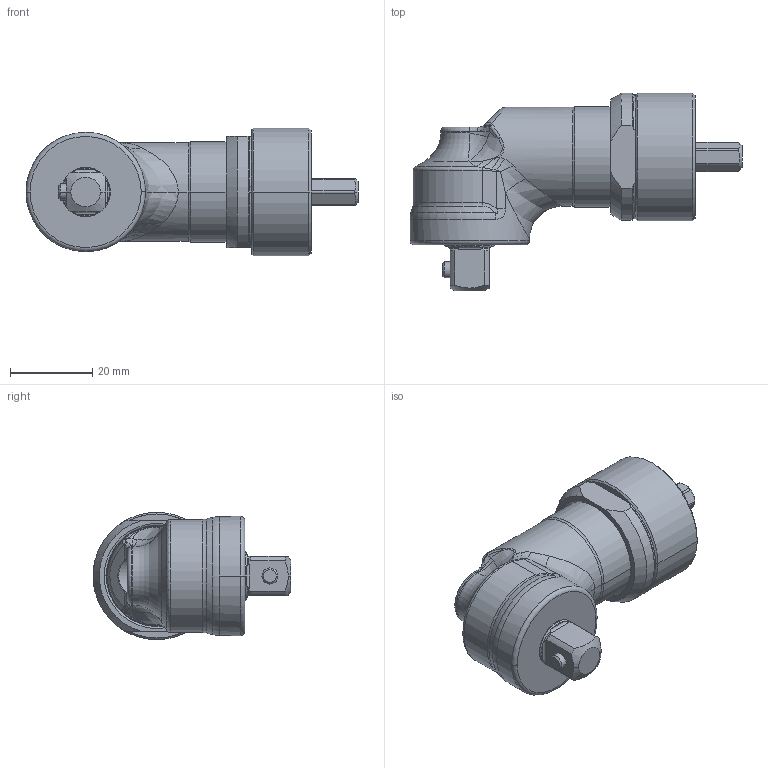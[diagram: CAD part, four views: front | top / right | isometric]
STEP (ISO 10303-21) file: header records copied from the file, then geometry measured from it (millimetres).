
FILE_DESCRIPTION((''),'2;1');
FILE_NAME('3602D97020_SW1','2026-07-10T11:26:49',('WKR3KOR'),(''),'CREO PARAMETRIC BY PTC INC, 2025123','CREO PARAMETRIC BY PTC INC, 2025123','');
FILE_SCHEMA(('AP242_MANAGED_MODEL_BASED_3D_ENGINEERING_MIM_LF { 1 0 10303 442 1 1 4 }'));
Length unit declared in the file: millimetre
Products named in the file (1): 3602D97020_SW1
Bounding box: 80.7 x 48.1 x 31 mm (x, y, z)
Volume: 35529.9 mm3; surface area: 12282.9 mm2
Topology: 2 solids, 2 shells, 288 faces, 719 edges, 442 vertices
Faces by surface type: bspline 73, plane 70, cylinder 61, cone 50, torus 34
Entity records: 21462 total; most frequent: CARTESIAN_POINT 10712, ORIENTED_EDGE 1434, DIRECTION 1216, PRESENTATION_STYLE_ASSIGNMENT 1004, STYLED_ITEM 721, CURVE_STYLE 717, EDGE_CURVE 717, AXIS2_PLACEMENT_3D 520
